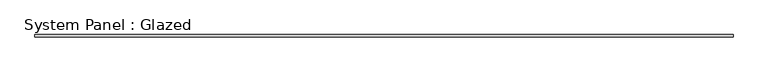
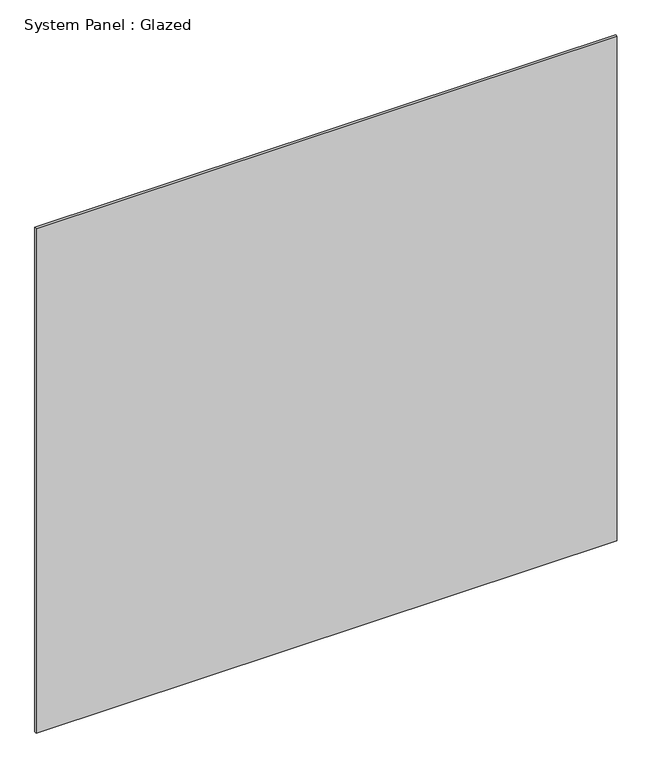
"""IFC4 building model written with IfcOpenShell, lengths in millimetres: plate geometry, System Panel : Glazed."""

from ifc_helpers import new_model, si_unit, origin, origin_with_axes, place, context, project, spatial, polyline, outline, extrude, source, transform, mapped, element, save


def system_panel_glazed_0138fbac(model_context):
    return source(origin(), model_context, "Body", "SweptSolid", [
        extrude(outline(polyline([(3597.2001938, -49.5), (-3597.2001938, -49.5), (-3597.2001938, -24.5), (3597.2001938, -24.5), (3597.2001938, -49.5)])), origin_with_axes(), (0.0, 0.0, 1.0), 6600.0),
    ])


if __name__ == "__main__":
    model = new_model("IFC4")
    model_context = context("Model", 3, world=origin())
    ifc_project = project(units=[si_unit("LENGTHUNIT", "METRE", prefix="MILLI")], contexts=[model_context])
    site = spatial("IfcSite", under=ifc_project)
    building = spatial("IfcBuilding", under=site)
    placement = place(None, origin())
    system_panel_glazed_shape = system_panel_glazed_0138fbac(model_context)
    element("IfcPlate", 1, ObjectType="System Panel : Glazed", at=placement, inside=building, context=model_context, shape_type="MappedRepresentation", body=[
        mapped(system_panel_glazed_shape, transform((0.0, 0.0, 0.0), x_axis=(1.0, 0.0, 0.0), y_axis=(0.0, 1.0, 0.0), z_axis=(0.0, 0.0, 1.0))),
    ])
    save(model, "model.ifc")
